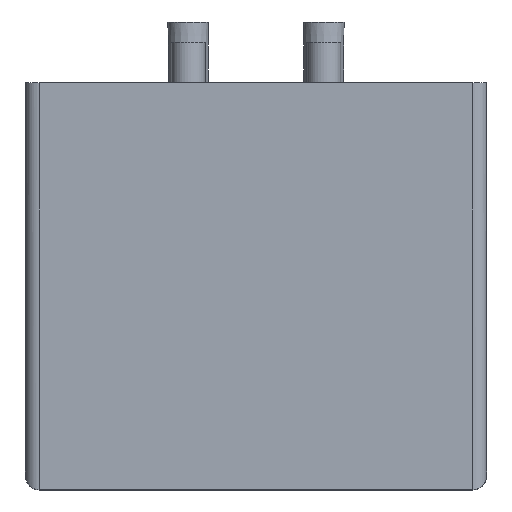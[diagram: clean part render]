
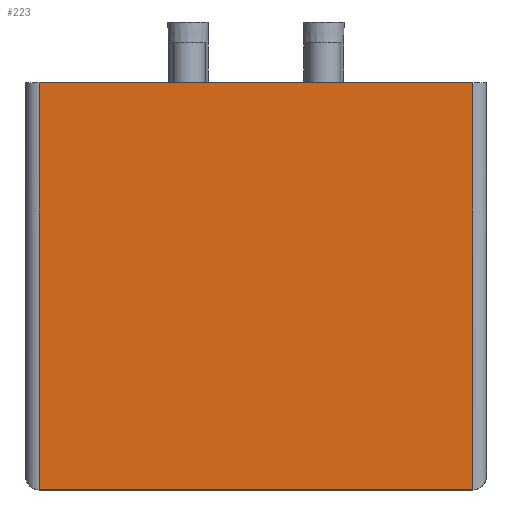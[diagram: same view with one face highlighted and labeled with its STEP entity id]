
A CAD part, top view. The second image highlights one B-rep face of the part: STEP entity #223.
In plain terms, the highlighted planar face has unit normal (0, 0, 1).
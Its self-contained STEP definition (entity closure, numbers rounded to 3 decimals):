
#223=ADVANCED_FACE('',(#529),#530,.F.);
#529=FACE_OUTER_BOUND('',#931,.T.);
#530=PLANE('',#932);
#931=EDGE_LOOP('',(#1502,#1503,#1504,#1505));
#932=AXIS2_PLACEMENT_3D('',#1506,#1507,#1508);
#1502=ORIENTED_EDGE('',*,*,#2088,.F.);
#1503=ORIENTED_EDGE('',*,*,#2054,.T.);
#1504=ORIENTED_EDGE('',*,*,#2069,.F.);
#1505=ORIENTED_EDGE('',*,*,#2024,.T.);
#1506=CARTESIAN_POINT('',(17.0,-30.0,12.5));
#1507=DIRECTION('',(0.0,0.0,-1.0));
#1508=DIRECTION('',(0.0,-1.0,0.0));
#2024=EDGE_CURVE('',#2352,#2353,#2354,.T.);
#2054=EDGE_CURVE('',#2380,#2392,#2394,.T.);
#2069=EDGE_CURVE('',#2352,#2392,#2417,.T.);
#2088=EDGE_CURVE('',#2380,#2353,#2444,.T.);
#2352=VERTEX_POINT('',#2887);
#2353=VERTEX_POINT('',#2888);
#2354=LINE('',#2889,#2890);
#2380=VERTEX_POINT('',#2924);
#2392=VERTEX_POINT('',#2940);
#2394=LINE('',#2942,#2943);
#2417=LINE('',#2967,#2968);
#2444=LINE('',#2995,#2996);
#2887=CARTESIAN_POINT('',(-16.0,0.,12.5));
#2888=CARTESIAN_POINT('',(-16.0,-30.0,12.5));
#2889=CARTESIAN_POINT('',(-16.0,-30.0,12.5));
#2890=VECTOR('',#3320,1.0);
#2924=CARTESIAN_POINT('',(16.0,-30.0,12.5));
#2940=CARTESIAN_POINT('',(16.0,0.,12.5));
#2942=CARTESIAN_POINT('',(16.0,-30.0,12.5));
#2943=VECTOR('',#3354,1.0);
#2967=CARTESIAN_POINT('',(-17.0,0.,12.5));
#2968=VECTOR('',#3380,1.0);
#2995=CARTESIAN_POINT('',(17.0,-30.0,12.5));
#2996=VECTOR('',#3405,1.0);
#3320=DIRECTION('',(0.0,-1.0,0.0));
#3354=DIRECTION('',(0.0,1.0,0.0));
#3380=DIRECTION('',(1.0,0.0,0.0));
#3405=DIRECTION('',(-1.0,0.0,0.0));
